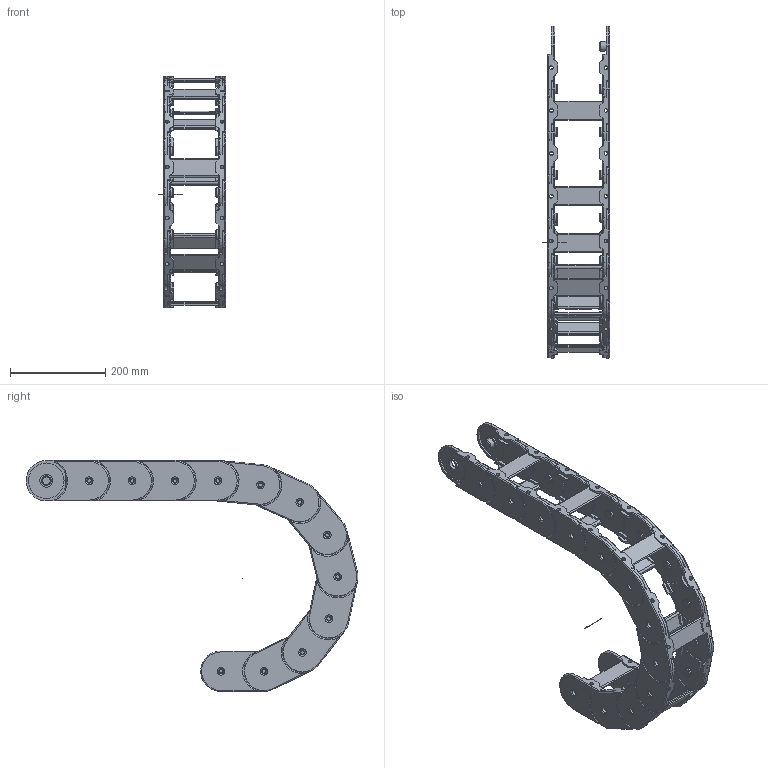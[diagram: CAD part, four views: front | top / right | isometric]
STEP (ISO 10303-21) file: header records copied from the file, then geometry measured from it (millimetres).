
FILE_DESCRIPTION((''),'2;1');
FILE_NAME('C:\Uebbing\TRACE PARTS\PKK\PKK 340\PKK 340 vereinfacht.stp','2013-06-10T12:53:56',('Uebbing'),(''),'Autodesk Inventor 10','Autodesk Inventor 10','');
FILE_SCHEMA(('AUTOMOTIVE_DESIGN { 1 0 10303 214 1 1 1 1 }'));
Length unit declared in the file: millimetre
Products named in the file (4): PKK 340 vereinfacht; Achse; PKK 340 Glied vereinfacht; PKK 340 Glied ohne Steg vereinfacht
Assembly tree (13 placements, depth 2):
  PKK 340 vereinfacht
    Achse
    PKK 340 Glied vereinfacht  x6
    PKK 340 Glied ohne Steg vereinfacht  x6
Bounding box: 141.09 x 696.48 x 485 mm (x, y, z)
Volume: 2432383.3 mm3; surface area: 1006276 mm2
Topology: 19 solids, 19 shells, 1911 faces, 4708 edges, 2799 vertices
Faces by surface type: plane 746, cylinder 613, bspline 264, torus 192, sphere 96
Full cylindrical faces by diameter (mm): 1 x1, 8 x24, 12 x24, 20 x24, 20.2 x24, 27 x48, 74.4 x48
Entity records: 10275 total; most frequent: CARTESIAN_POINT 2796, DIRECTION 1560, ORIENTED_EDGE 1436, EDGE_CURVE 718, AXIS2_PLACEMENT_3D 584, VERTEX_POINT 464, EDGE_LOOP 414, VECTOR 392
